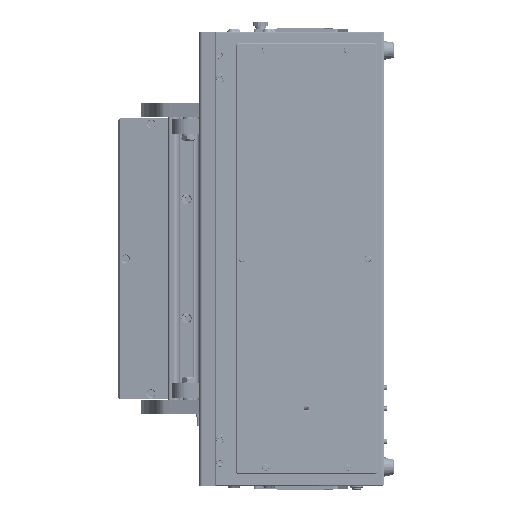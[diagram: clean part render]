
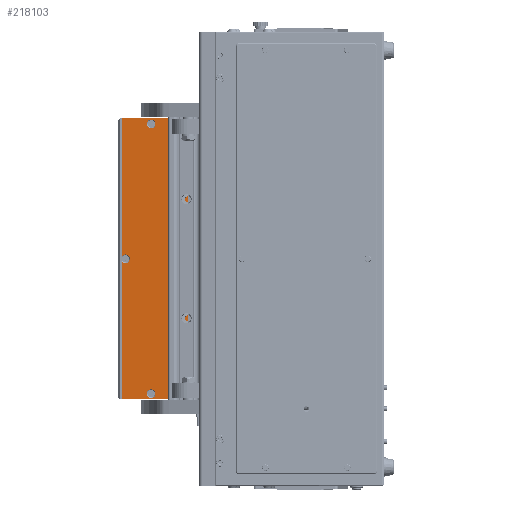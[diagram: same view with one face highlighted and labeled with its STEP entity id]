
A CAD part, left-side view. The second image highlights one B-rep face of the part: STEP entity #218103.
In plain terms, the highlighted planar face has unit normal (-0.996, 0.087, 0) as drawn and (0, 1, 0) by its records, which use the part's own axes.
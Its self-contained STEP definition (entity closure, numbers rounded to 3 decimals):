
#3604 = CARTESIAN_POINT ( 'NONE',  ( 0., 4., -16.906 ) ) ;
#6578 = CIRCLE ( 'NONE', #157630, 4.7 ) ;
#8480 = CARTESIAN_POINT ( 'NONE',  ( -151., 4., 50.527 ) ) ;
#9208 = CARTESIAN_POINT ( 'NONE',  ( -149., 4., 50.527 ) ) ;
#10619 = AXIS2_PLACEMENT_3D ( 'NONE', #18016, #166496, #224254 ) ;
#14671 = VECTOR ( 'NONE', #106800, 1000. ) ;
#16094 = PLANE ( 'NONE',  #68588 ) ;
#17904 = EDGE_CURVE ( 'NONE', #115648, #164734, #85925, .T. ) ;
#18016 = CARTESIAN_POINT ( 'NONE',  ( 145.016, 4., 10.802 ) ) ;
#18144 = DIRECTION ( 'NONE',  ( 0., 1., 0. ) ) ;
#18449 = VECTOR ( 'NONE', #83938, 1000. ) ;
#19637 = CARTESIAN_POINT ( 'NONE',  ( -149., 4., 48.527 ) ) ;
#20473 = DIRECTION ( 'NONE',  ( 0., 1., 0. ) ) ;
#24973 = CARTESIAN_POINT ( 'NONE',  ( 0., 4., -16.906 ) ) ;
#26508 = CARTESIAN_POINT ( 'NONE',  ( -151., 4., -20.923 ) ) ;
#31088 = ORIENTED_EDGE ( 'NONE', *, *, #17904, .T. ) ;
#32992 = VERTEX_POINT ( 'NONE', #153051 ) ;
#35437 = VERTEX_POINT ( 'NONE', #210716 ) ;
#36236 = VECTOR ( 'NONE', #165621, 1000. ) ;
#36453 = DIRECTION ( 'NONE',  ( 0., 1., 0. ) ) ;
#38964 = CIRCLE ( 'NONE', #58756, 4.7 ) ;
#41312 = DIRECTION ( 'NONE',  ( 0., 1., 0. ) ) ;
#43636 = VERTEX_POINT ( 'NONE', #153654 ) ;
#43726 = CARTESIAN_POINT ( 'NONE',  ( -145.016, 4., 10.802 ) ) ;
#49719 = LINE ( 'NONE', #88165, #14671 ) ;
#50143 = EDGE_LOOP ( 'NONE', ( #213266, #91868, #91390, #223965, #99994, #31088, #147664, #191753, #54378 ) ) ;
#53119 = DIRECTION ( 'NONE',  ( 0., 0., 1. ) ) ;
#54378 = ORIENTED_EDGE ( 'NONE', *, *, #137918, .T. ) ;
#55456 = VERTEX_POINT ( 'NONE', #209721 ) ;
#56268 = ORIENTED_EDGE ( 'NONE', *, *, #230014, .F. ) ;
#58756 = AXIS2_PLACEMENT_3D ( 'NONE', #164270, #18144, #53119 ) ;
#59785 = EDGE_CURVE ( 'NONE', #203053, #55456, #103157, .T. ) ;
#60233 = DIRECTION ( 'NONE',  ( 0., 0., -1. ) ) ;
#63735 = DIRECTION ( 'NONE',  ( 0., 0., -1. ) ) ;
#65266 = VERTEX_POINT ( 'NONE', #121409 ) ;
#68254 = EDGE_CURVE ( 'NONE', #43636, #144475, #6578, .T. ) ;
#68588 = AXIS2_PLACEMENT_3D ( 'NONE', #125691, #236274, #238698 ) ;
#69503 = FACE_OUTER_BOUND ( 'NONE', #50143, .T. ) ;
#70839 = LINE ( 'NONE', #209977, #236607 ) ;
#71301 = DIRECTION ( 'NONE',  ( 0., 0., -1. ) ) ;
#76313 = AXIS2_PLACEMENT_3D ( 'NONE', #144348, #36453, #71301 ) ;
#79250 = VERTEX_POINT ( 'NONE', #128094 ) ;
#83938 = DIRECTION ( 'NONE',  ( 0., 0., 1. ) ) ;
#85925 = CIRCLE ( 'NONE', #228916, 2. ) ;
#88165 = CARTESIAN_POINT ( 'NONE',  ( -151., 4., 50.527 ) ) ;
#89997 = EDGE_LOOP ( 'NONE', ( #92961, #177208 ) ) ;
#91390 = ORIENTED_EDGE ( 'NONE', *, *, #163736, .F. ) ;
#91868 = ORIENTED_EDGE ( 'NONE', *, *, #59785, .F. ) ;
#92961 = ORIENTED_EDGE ( 'NONE', *, *, #189464, .F. ) ;
#99994 = ORIENTED_EDGE ( 'NONE', *, *, #137960, .T. ) ;
#101846 = CIRCLE ( 'NONE', #202612, 4.7 ) ;
#102582 = CIRCLE ( 'NONE', #76313, 2. ) ;
#102812 = VERTEX_POINT ( 'NONE', #235280 ) ;
#103157 = CIRCLE ( 'NONE', #111237, 4.7 ) ;
#106800 = DIRECTION ( 'NONE',  ( 1., 0., 0. ) ) ;
#109486 = CARTESIAN_POINT ( 'NONE',  ( -151., 4., 48.527 ) ) ;
#110190 = ORIENTED_EDGE ( 'NONE', *, *, #68254, .F. ) ;
#111237 = AXIS2_PLACEMENT_3D ( 'NONE', #24973, #176669, #231973 ) ;
#113410 = EDGE_CURVE ( 'NONE', #164734, #65266, #49719, .T. ) ;
#114792 = DIRECTION ( 'NONE',  ( 0., 0., 1. ) ) ;
#115648 = VERTEX_POINT ( 'NONE', #109486 ) ;
#118853 = FACE_BOUND ( 'NONE', #89997, .T. ) ;
#121236 = LINE ( 'NONE', #26508, #162035 ) ;
#121409 = CARTESIAN_POINT ( 'NONE',  ( 149., 4., 50.527 ) ) ;
#125691 = CARTESIAN_POINT ( 'NONE',  ( 0., 4., 0. ) ) ;
#128094 = CARTESIAN_POINT ( 'NONE',  ( 145.016, 4., 15.502 ) ) ;
#133219 = CARTESIAN_POINT ( 'NONE',  ( -145.016, 4., 15.502 ) ) ;
#137487 = LINE ( 'NONE', #8480, #18449 ) ;
#137918 = EDGE_CURVE ( 'NONE', #145671, #102812, #70839, .T. ) ;
#137960 = EDGE_CURVE ( 'NONE', #35437, #115648, #137487, .T. ) ;
#144348 = CARTESIAN_POINT ( 'NONE',  ( 149., 4., 48.527 ) ) ;
#144475 = VERTEX_POINT ( 'NONE', #133219 ) ;
#144813 = CARTESIAN_POINT ( 'NONE',  ( 151., 4., 48.527 ) ) ;
#145671 = VERTEX_POINT ( 'NONE', #144813 ) ;
#146099 = CARTESIAN_POINT ( 'NONE',  ( 145.016, 4., 6.102 ) ) ;
#147664 = ORIENTED_EDGE ( 'NONE', *, *, #113410, .T. ) ;
#153051 = CARTESIAN_POINT ( 'NONE',  ( -2.441, 4., -20.923 ) ) ;
#153654 = CARTESIAN_POINT ( 'NONE',  ( -145.016, 4., 6.102 ) ) ;
#157630 = AXIS2_PLACEMENT_3D ( 'NONE', #43726, #41312, #171072 ) ;
#162035 = VECTOR ( 'NONE', #174988, 1000. ) ;
#163736 = EDGE_CURVE ( 'NONE', #32992, #203053, #225068, .T. ) ;
#164270 = CARTESIAN_POINT ( 'NONE',  ( 145.016, 4., 10.802 ) ) ;
#164734 = VERTEX_POINT ( 'NONE', #9208 ) ;
#165621 = DIRECTION ( 'NONE',  ( -1., 0., 0. ) ) ;
#166496 = DIRECTION ( 'NONE',  ( 0., 1., 0. ) ) ;
#171072 = DIRECTION ( 'NONE',  ( 0., 0., 1. ) ) ;
#174988 = DIRECTION ( 'NONE',  ( -1., 0., 0. ) ) ;
#176669 = DIRECTION ( 'NONE',  ( 0., 1., 0. ) ) ;
#177164 = FACE_BOUND ( 'NONE', #228252, .T. ) ;
#177208 = ORIENTED_EDGE ( 'NONE', *, *, #215509, .F. ) ;
#180528 = CARTESIAN_POINT ( 'NONE',  ( 0., 4., -12.206 ) ) ;
#181840 = CIRCLE ( 'NONE', #10619, 4.7 ) ;
#189464 = EDGE_CURVE ( 'NONE', #79250, #191518, #38964, .T. ) ;
#191084 = DIRECTION ( 'NONE',  ( 0., 0., 1. ) ) ;
#191518 = VERTEX_POINT ( 'NONE', #146099 ) ;
#191753 = ORIENTED_EDGE ( 'NONE', *, *, #227441, .T. ) ;
#193045 = AXIS2_PLACEMENT_3D ( 'NONE', #3604, #226229, #114792 ) ;
#198802 = LINE ( 'NONE', #201465, #36236 ) ;
#200783 = EDGE_CURVE ( 'NONE', #102812, #55456, #198802, .T. ) ;
#201465 = CARTESIAN_POINT ( 'NONE',  ( -151., 4., -20.923 ) ) ;
#202612 = AXIS2_PLACEMENT_3D ( 'NONE', #210650, #211454, #191084 ) ;
#203053 = VERTEX_POINT ( 'NONE', #180528 ) ;
#204569 = EDGE_CURVE ( 'NONE', #32992, #35437, #121236, .T. ) ;
#209721 = CARTESIAN_POINT ( 'NONE',  ( 2.441, 4., -20.923 ) ) ;
#209977 = CARTESIAN_POINT ( 'NONE',  ( 151., 4., 50.527 ) ) ;
#210650 = CARTESIAN_POINT ( 'NONE',  ( -145.016, 4., 10.802 ) ) ;
#210716 = CARTESIAN_POINT ( 'NONE',  ( -151., 4., -20.923 ) ) ;
#211454 = DIRECTION ( 'NONE',  ( 0., 1., 0. ) ) ;
#213266 = ORIENTED_EDGE ( 'NONE', *, *, #200783, .T. ) ;
#215509 = EDGE_CURVE ( 'NONE', #191518, #79250, #181840, .T. ) ;
#218103 = ADVANCED_FACE ( 'NONE', ( #177164, #118853, #69503 ), #16094, .F. ) ;
#223965 = ORIENTED_EDGE ( 'NONE', *, *, #204569, .T. ) ;
#224254 = DIRECTION ( 'NONE',  ( 0., 0., 1. ) ) ;
#225068 = CIRCLE ( 'NONE', #193045, 4.7 ) ;
#226229 = DIRECTION ( 'NONE',  ( 0., 1., 0. ) ) ;
#227441 = EDGE_CURVE ( 'NONE', #65266, #145671, #102582, .T. ) ;
#228252 = EDGE_LOOP ( 'NONE', ( #56268, #110190 ) ) ;
#228916 = AXIS2_PLACEMENT_3D ( 'NONE', #19637, #20473, #60233 ) ;
#230014 = EDGE_CURVE ( 'NONE', #144475, #43636, #101846, .T. ) ;
#231973 = DIRECTION ( 'NONE',  ( 0., 0., 1. ) ) ;
#235280 = CARTESIAN_POINT ( 'NONE',  ( 151., 4., -20.923 ) ) ;
#236274 = DIRECTION ( 'NONE',  ( 0., -1., 0. ) ) ;
#236607 = VECTOR ( 'NONE', #63735, 1000. ) ;
#238698 = DIRECTION ( 'NONE',  ( 0., 0., -1. ) ) ;
